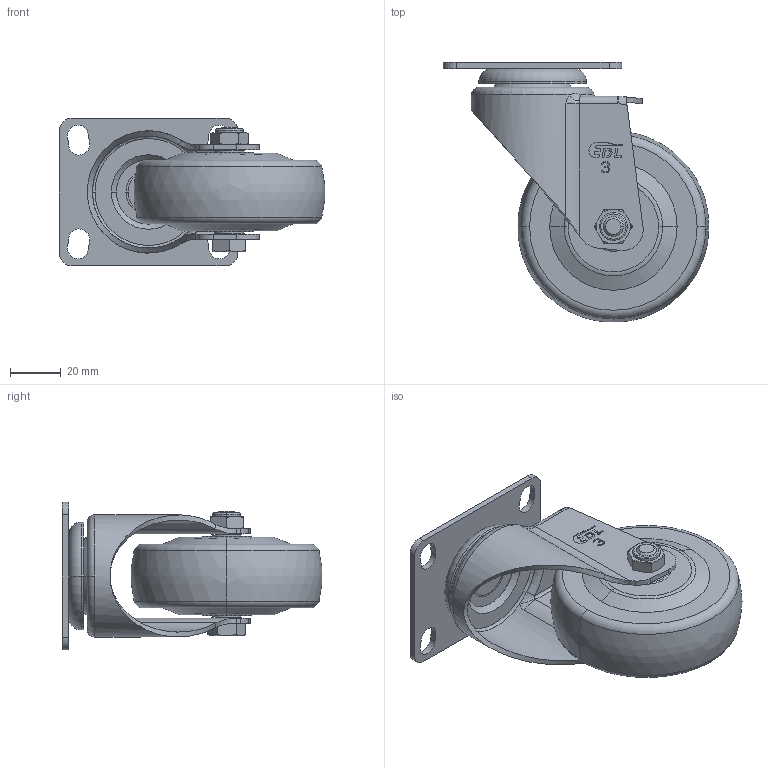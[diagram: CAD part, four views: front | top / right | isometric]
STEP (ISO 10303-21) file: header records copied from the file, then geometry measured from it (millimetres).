
FILE_DESCRIPTION((''),'2;1');
FILE_NAME('S34713_ASM','2021-07-24T',('lenovo'),(''),'PRO/ENGINEER BY PARAMETRIC TECHNOLOGY CORPORATION, 2010280','PRO/ENGINEER BY PARAMETRIC TECHNOLOGY CORPORATION, 2010280','');
FILE_SCHEMA(('CONFIG_CONTROL_DESIGN'));
Length unit declared in the file: millimetre
Products named in the file (6): S340-01; S343-11; 363-964; S340-33; S340-34; S34713_ASM
Assembly tree (5 placements, depth 2):
  S34713_ASM
    S340-01
    S343-11
    363-964
    S340-33
    S340-34
Bounding box: 104.06 x 101.86 x 58 mm (x, y, z)
Volume: 146737 mm3; surface area: 42740.3 mm2
Topology: 5 solids, 5 shells, 295 faces, 743 edges, 474 vertices
Faces by surface type: plane 152, cylinder 66, torus 36, cone 24, bspline 13, sphere 4
Entity records: 10658 total; most frequent: CARTESIAN_POINT 3398, ORIENTED_EDGE 1486, DIRECTION 1483, EDGE_CURVE 743, AXIS2_PLACEMENT_3D 523, VERTEX_POINT 474, VECTOR 437, LINE 437
